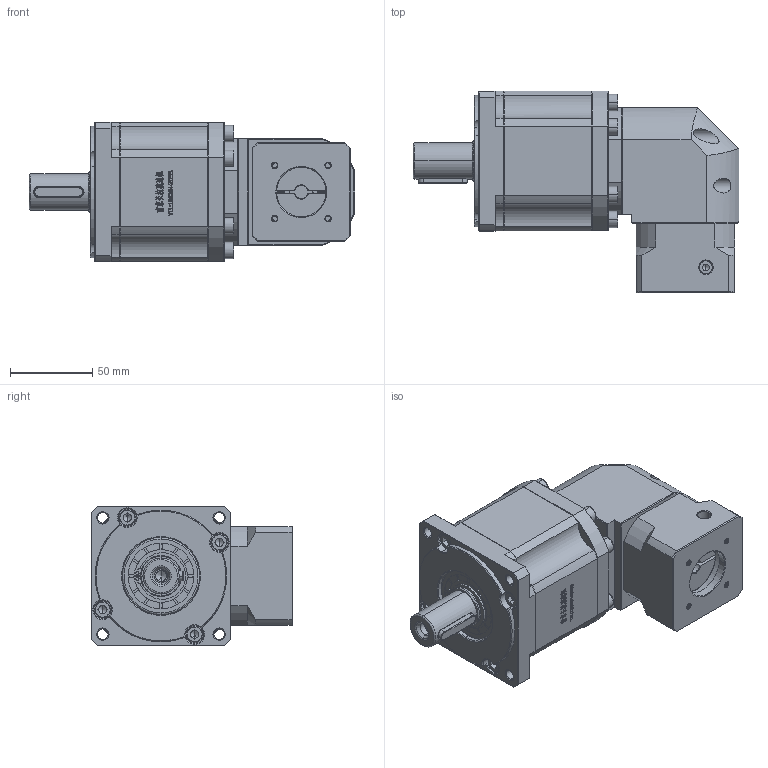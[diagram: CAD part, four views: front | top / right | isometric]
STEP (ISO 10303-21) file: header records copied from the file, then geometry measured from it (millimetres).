
FILE_DESCRIPTION (( 'STEP AP214' ), '1' );
FILE_NAME ('ZBR90-D22-L3-8-30-46-M4.step', '2022-05-07T15:22:58', ( '' ), ( 'Microsoft' ), 'SwSTEP 2.0', 'SolidWorks 2016', '' );
FILE_SCHEMA (( 'AUTOMOTIVE_DESIGN' ));
Length unit declared in the file: millimetre
Products named in the file (1): ZBR90-D22-L3-8-30-46-M4
Bounding box: 198 x 122.7 x 85 mm (x, y, z)
Volume: 930811.2 mm3; surface area: 107204 mm2
Topology: 5 solids, 5 shells, 3083 faces, 8296 edges, 5362 vertices
Faces by surface type: plane 1596, bspline 672, cylinder 429, cone 366, torus 20
Entity records: 184826 total; most frequent: CARTESIAN_POINT 78695, ORIENTED_EDGE 16516, DIRECTION 12486, EDGE_CURVE 8258, VERTEX_POINT 5362, VECTOR 5328, LINE 5328, AXIS2_PLACEMENT_3D 3579
